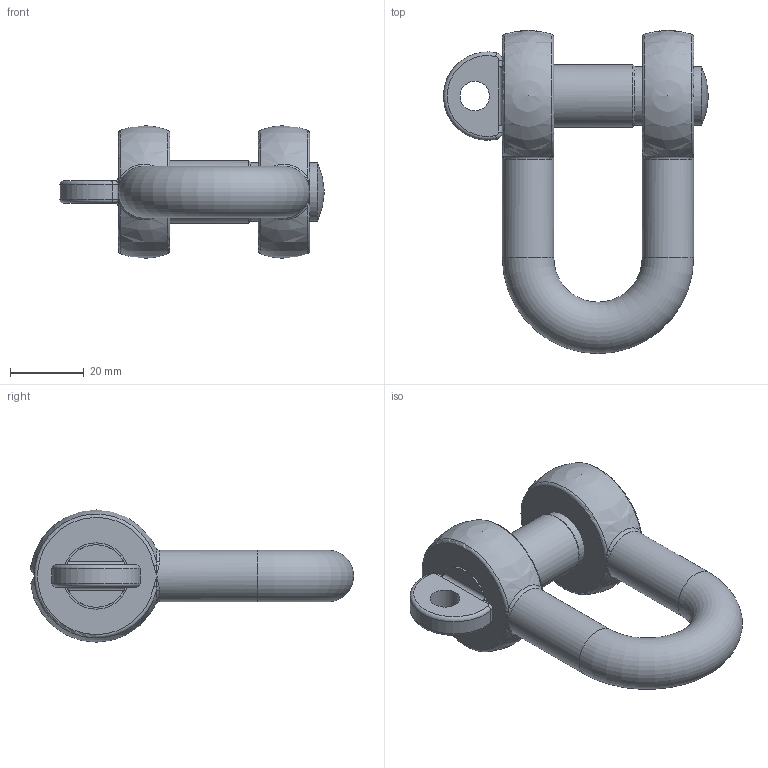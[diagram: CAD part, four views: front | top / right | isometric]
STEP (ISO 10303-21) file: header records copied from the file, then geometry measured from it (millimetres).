
FILE_DESCRIPTION(/* description */ (''),/* implementation_level */ '2;1');
FILE_NAME(/* name */ 'C:\Users\D\Documents\Inventor\HP\吊具\シャックル\SC_2\sc_14.stp',/* time_stamp */ '2024-11-14T11:46:52+09:00',/* author */ ('D'),/* organization */ (''),/* preprocessor_version */ 'ST-DEVELOPER v18',/* originating_system */ 'Autodesk Inventor 2020',/* authorisation */ '');
FILE_SCHEMA (('AUTOMOTIVE_DESIGN { 1 0 10303 214 3 1 1 }'));
Length unit declared in the file: millimetre
Products named in the file (3): sc_14; sb_6; bc-sc_pin_6
Assembly tree (2 placements, depth 2):
  sc_14
    sb_6
    bc-sc_pin_6
Bounding box: 71.96 x 87.87 x 36 mm (x, y, z)
Volume: 52379.5 mm3; surface area: 15974 mm2
Topology: 2 solids, 2 shells, 69 faces, 185 edges, 100 vertices
Faces by surface type: bspline 28, cylinder 16, torus 11, plane 10, sphere 3, cone 1
Full cylindrical faces by diameter (mm): 8 x1, 13.835 x1, 14 x2, 16 x1, 17 x1, 18 x1
Entity records: 2737 total; most frequent: CARTESIAN_POINT 1131, ORIENTED_EDGE 330, DIRECTION 302, EDGE_CURVE 165, AXIS2_PLACEMENT_3D 139, VERTEX_POINT 100, CIRCLE 93, EDGE_LOOP 75
